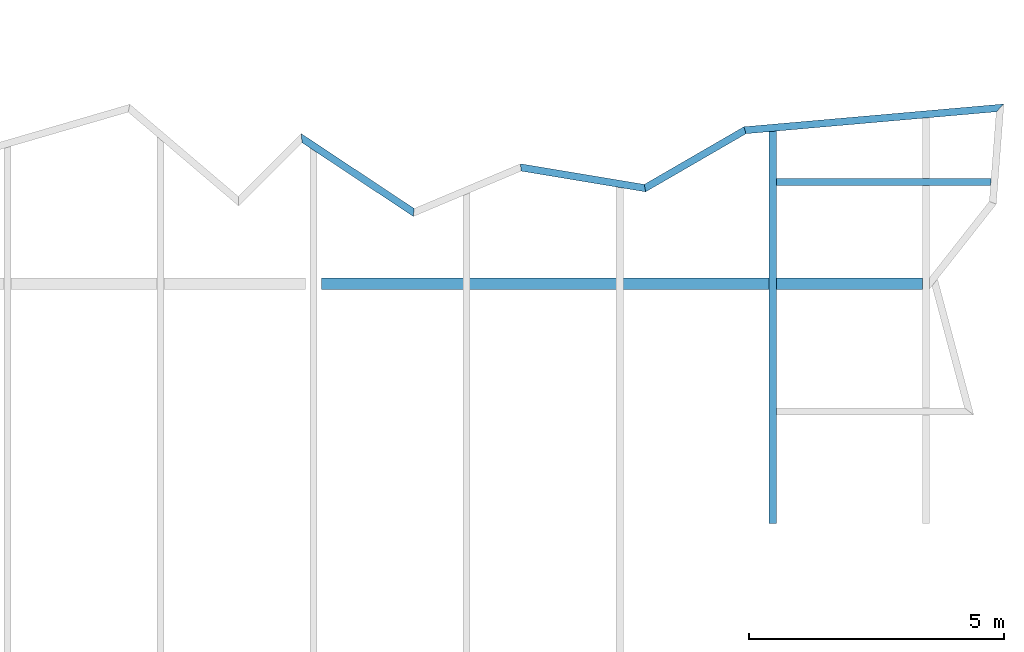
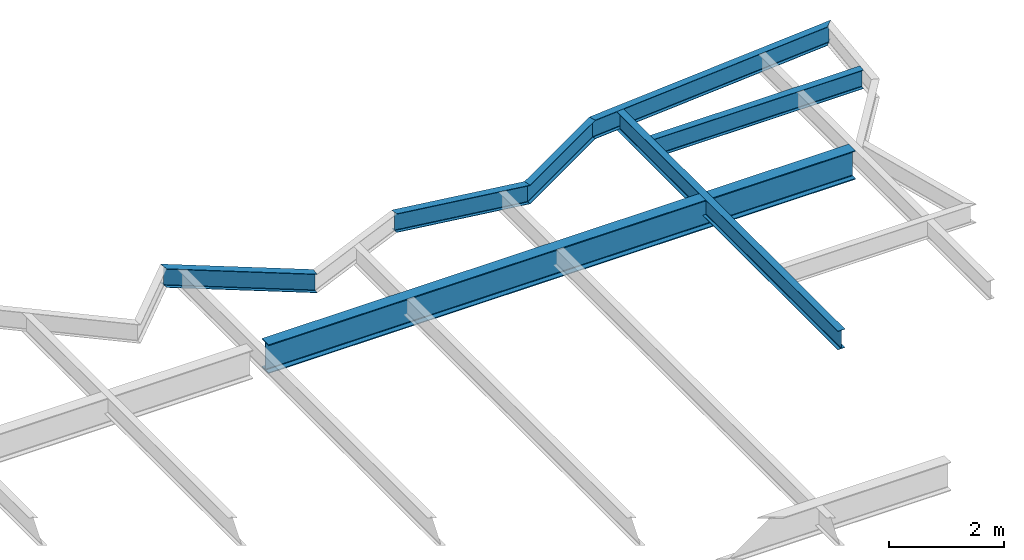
# One storey, part 20 of 21: 7 beams.
"""IFC2X3 building model written with IfcOpenShell, lengths in millimetres."""

import ifcopenshell
import ifcopenshell.guid

model = None  # the IFC model being written
_history = None  # IfcOwnerHistory: only IFC2X3 demands one
_inside = {}  # id of a spatial element -> (the spatial element, [elements in it])
_under = {}  # id of a project, library or spatial element -> (it, [spatial elements below it])
_declared = {}  # id of a project -> (the project, [libraries it declares])
_typed = {}  # id of a type object -> (the type object, [elements of that type])
_made_of = {}  # id of a material, layer set ... -> (it, [elements and type objects made of it])


def new_model(schema):
    """Start an empty IFC model of exactly this schema.

    Asked for "IFC4X3", IfcOpenShell would pick the latest addendum, in which some entities
    have other attributes; the version numbers below select the first issue.
    IFC2X3 requires an IfcOwnerHistory on every rooted entity: one is made here for all.
    """
    global model, _history
    if schema == "IFC4X3":
        model = ifcopenshell.file(schema_version=(4, 3, 0, 0))
    else:
        model = ifcopenshell.file(schema=schema)
    _inside.clear()
    _under.clear()
    _declared.clear()
    _typed.clear()
    _made_of.clear()
    _history = None
    if model.schema == "IFC2X3":
        org = make("IfcOrganization", Name="unknown")
        user = make(
            "IfcPersonAndOrganization",
            ThePerson=make("IfcPerson", FamilyName="unknown"),
            TheOrganization=org,
        )
        app = make(
            "IfcApplication",
            ApplicationDeveloper=org,
            Version="unknown",
            ApplicationFullName="unknown",
            ApplicationIdentifier="unknown",
        )
        _history = make(
            "IfcOwnerHistory",
            OwningUser=user,
            OwningApplication=app,
            ChangeAction="ADDED",
            CreationDate=0,
        )
    return model


def make(cls, **values):
    """One entity of the class cls with the attributes given. An attribute that is None is left unset."""
    return model.create_entity(
        cls, **{name: value for name, value in values.items() if value is not None}
    )


def rooted(cls, **values):
    """An entity with a GlobalId (a new one), such as an element, a storey or a relation."""
    return make(cls, GlobalId=ifcopenshell.guid.new(), OwnerHistory=_history, **values)


def si_unit(unit_type, name, prefix=None):
    """IfcSIUnit, for example si_unit("LENGTHUNIT", "METRE", prefix="MILLI")."""
    return make("IfcSIUnit", UnitType=unit_type, Prefix=prefix, Name=name)


def assignment(units):
    """IfcUnitAssignment: the units of a project."""
    return None if units is None else make("IfcUnitAssignment", Units=units)


def point(xyz):
    """IfcCartesianPoint."""
    return None if xyz is None else make("IfcCartesianPoint", Coordinates=xyz)


def direction(xyz):
    """IfcDirection."""
    return None if xyz is None else make("IfcDirection", DirectionRatios=xyz)


def frame(location, z_axis=None, x_axis=None):
    """IfcAxis2Placement3D, a coordinate frame: its origin and axes. An axis left out is left unset."""
    return make(
        "IfcAxis2Placement3D",
        Location=point(location),
        Axis=direction(z_axis),
        RefDirection=direction(x_axis),
    )


def origin():
    """The frame at (0, 0, 0) with its axes left unset."""
    return frame((0.0, 0.0, 0.0))


def place(relative_to, where):
    """IfcLocalPlacement: puts the frame where relative to a parent placement (None: the world)."""
    return make(
        "IfcLocalPlacement", PlacementRelTo=relative_to, RelativePlacement=where
    )


def context(
    kind, dimensions, precision=None, world=None, true_north=None, identifier=None
):
    """IfcGeometricRepresentationContext, for example the 3D "Model" context."""
    return make(
        "IfcGeometricRepresentationContext",
        ContextIdentifier=identifier,
        ContextType=kind,
        CoordinateSpaceDimension=dimensions,
        Precision=precision,
        WorldCoordinateSystem=world,
        TrueNorth=true_north,
    )


def project(units=None, contexts=None):
    """IfcProject with its units and contexts."""
    return rooted(
        "IfcProject",
        Name="project",
        RepresentationContexts=contexts,
        UnitsInContext=assignment(units),
    )


def spatial(cls, under=None, at=None, **own):
    """A site, building, storey or space (cls), placed at a placement, below another one or the project."""
    s = rooted(cls, ObjectPlacement=at, **own)
    if under is not None:
        _under.setdefault(under.id(), (under, []))[1].append(s)
    return s


def faces_of(points, faces, orient=None, outer=None):
    """IfcFace entities. A face is a list of loops; a loop is a list of indices into points, from 0.

    orient and outer hold one flag for each loop. By default every Orientation is true, the
    first loop of a face is its IfcFaceOuterBound and the others are IfcFaceBound.
    """
    made = []
    for i, loops in enumerate(faces):
        bounds = []
        for j, loop in enumerate(loops):
            is_outer = j == 0 if outer is None else outer[i][j]
            bounds.append(
                make(
                    "IfcFaceOuterBound" if is_outer else "IfcFaceBound",
                    Bound=make("IfcPolyLoop", Polygon=[points[k] for k in loop]),
                    Orientation=True if orient is None else orient[i][j],
                )
            )
        made.append(make("IfcFace", Bounds=bounds))
    return made


def faceted_brep(points, faces, orient=None, outer=None, voids=None):
    """IfcFacetedBrep: a solid bounded by flat faces; with voids (closed shells), ...WithVoids."""
    shared = [point(p) for p in points]
    hull = make("IfcClosedShell", CfsFaces=faces_of(shared, faces, orient, outer))
    if voids is None:
        return make("IfcFacetedBrep", Outer=hull)
    return make(
        "IfcFacetedBrepWithVoids",
        Outer=hull,
        Voids=[
            make(cls, CfsFaces=faces_of(shared, fs, o, b)) for cls, fs, o, b in voids
        ],
    )


def shape(context_of_items, identifier, shape_type, items):
    """IfcShapeRepresentation: the items that make up one representation, for example the "Body"."""
    return make(
        "IfcShapeRepresentation",
        ContextOfItems=context_of_items,
        RepresentationIdentifier=identifier,
        RepresentationType=shape_type,
        Items=items,
    )


def material(Name=None, Category=None):
    """IfcMaterial."""
    return make("IfcMaterial", Name=Name, Category=Category)


def made_of(thing, what):
    """Note that an element or type object is made of a material, layer set ...; save() writes the relation."""
    if what is not None:
        _made_of.setdefault(what.id(), (what, []))[1].append(thing)
    return thing


def element(
    cls,
    number,
    at=None,
    inside=None,
    cuts=None,
    type_object=None,
    material=None,
    context=None,
    identifier="Body",
    shape_type=None,
    held_by="IfcProductDefinitionShape",
    body=None,
    shapes=None,
    **own,
):
    """One element of the class cls, such as IfcWall. Its Tag is "e" and its number.

    at: its placement. inside: the storey or other place that contains it. cuts: it is an
    opening in that element (IfcRelVoidsElement). A single representation is given by context,
    identifier, shape_type and body (its items); several are given by shapes. held_by: the class
    of the entity that holds the representations. save() writes the other relations.
    """
    e = rooted(cls, Tag="e%d" % number, ObjectPlacement=at, **own)
    if body is not None:
        shapes = [shape(context, identifier, shape_type, body)]
    if shapes is not None:
        e.Representation = make(held_by, Representations=shapes)
    if inside is not None:
        _inside.setdefault(inside.id(), (inside, []))[1].append(e)
    if cuts is not None:
        rooted(
            "IfcRelVoidsElement", RelatingBuildingElement=cuts, RelatedOpeningElement=e
        )
    if type_object is not None:
        _typed.setdefault(type_object.id(), (type_object, []))[1].append(e)
    return made_of(e, material)


def aggregate(whole, parts):
    """IfcRelAggregates: a whole, such as a stair, and the parts it consists of."""
    return rooted("IfcRelAggregates", RelatingObject=whole, RelatedObjects=parts)


def save(model, path):
    """Write the relations noted so far, then the file.

    IfcRelAggregates (storeys below a building ...), IfcRelContainedInSpatialStructure (elements
    in a storey), IfcRelDefinesByType, IfcRelAssociatesMaterial and IfcRelDeclares: one each for
    every whole, place, type object, material and project.
    """
    for whole, parts in _under.values():
        aggregate(whole, parts)
    for where, things in _inside.values():
        rooted(
            "IfcRelContainedInSpatialStructure",
            RelatedElements=things,
            RelatingStructure=where,
        )
    for kind, things in _typed.values():
        rooted("IfcRelDefinesByType", RelatedObjects=things, RelatingType=kind)
    for what, things in _made_of.values():
        rooted("IfcRelAssociatesMaterial", RelatedObjects=things, RelatingMaterial=what)
    for by, libraries in _declared.values():
        rooted("IfcRelDeclares", RelatingContext=by, RelatedDefinitions=libraries)
    model.write(path)


model = new_model("IFC2X3")

# Units and contexts
context_of_model = context(None, 3, precision=1e-05, world=origin())
ifc_project = project(units=[si_unit("LENGTHUNIT", "METRE", prefix="MILLI")], contexts=[context_of_model])

# Building, storey
building = spatial("IfcBuilding", under=ifc_project, Name="Building", CompositionType="ELEMENT")
storey = spatial("IfcBuildingStorey", under=building, Name="FL3-FRM", CompositionType="ELEMENT")

# Beams
ifc_material_1 = material(Name="A992")
beam_1_placement = place(None, origin())
element("IfcBeam", 1, at=beam_1_placement, inside=storey, material=ifc_material_1, Name="B1040", context=context_of_model, shape_type="Brep", body=[
    faceted_brep([(80930.0, 29983.1, 8474.0), (81070.0, 29995.4, 8474.0), (81070.0, 22300.0, 8474.0), (80930.0, 22300.0, 8474.0), (81070.0, 29995.4, 8482.8), (81070.0, 22300.0, 8482.8), (81013.4, 29990.4, 8482.8), (81013.4, 22300.0, 8482.8), (81011.9, 29990.3, 8482.9), (81011.9, 22300.0, 8482.9), (81010.5, 29990.1, 8483.21), (81010.5, 22300.0, 8483.21), (81009.2, 29990.0, 8483.72), (81009.2, 22300.0, 8483.72), (81007.9, 29989.9, 8484.42), (81007.9, 22300.0, 8484.42), (81006.7, 29989.8, 8485.29), (81006.7, 22300.0, 8485.29), (81005.7, 29989.7, 8486.32), (81005.7, 22300.0, 8486.32), (81004.8, 29989.6, 8487.49), (81004.8, 22300.0, 8487.49), (81004.1, 29989.6, 8488.76), (81004.1, 22300.0, 8488.76), (81003.6, 29989.5, 8490.13), (81003.6, 22300.0, 8490.13), (81003.3, 29989.5, 8491.55), (81003.3, 22300.0, 8491.55), (81003.2, 29989.5, 8493.0), (81003.2, 22300.0, 8493.0), (81003.2, 29989.5, 8854.0), (81003.2, 22300.0, 8854.0), (81003.3, 29989.5, 8855.45), (81003.3, 22300.0, 8855.45), (81003.6, 29989.5, 8856.87), (81003.6, 22300.0, 8856.87), (81004.1, 29989.6, 8858.24), (81004.1, 22300.0, 8858.24), (81004.8, 29989.6, 8859.51), (81004.8, 22300.0, 8859.51), (81005.7, 29989.7, 8860.68), (81005.7, 22300.0, 8860.68), (81006.7, 29989.8, 8861.71), (81006.7, 22300.0, 8861.71), (81007.9, 29989.9, 8862.58), (81007.9, 22300.0, 8862.58), (81009.2, 29990.0, 8863.28), (81009.2, 22300.0, 8863.28), (81010.5, 29990.1, 8863.79), (81010.5, 22300.0, 8863.79), (81011.9, 29990.3, 8864.1), (81011.9, 22300.0, 8864.1), (81013.4, 29990.4, 8864.2), (81013.4, 22300.0, 8864.2), (81070.0, 29995.4, 8864.2), (81070.0, 22300.0, 8864.2), (81070.0, 29995.4, 8873.0), (81070.0, 22300.0, 8873.0), (80930.0, 29983.1, 8873.0), (80930.0, 22300.0, 8873.0), (80930.0, 29983.1, 8864.2), (80930.0, 22300.0, 8864.2), (80986.6, 29988.0, 8864.2), (80986.6, 22300.0, 8864.2), (80988.1, 29988.2, 8864.1), (80988.1, 22300.0, 8864.1), (80989.5, 29988.3, 8863.79), (80989.5, 22300.0, 8863.79), (80990.8, 29988.4, 8863.28), (80990.8, 22300.0, 8863.28), (80992.1, 29988.5, 8862.58), (80992.1, 22300.0, 8862.58), (80993.3, 29988.6, 8861.71), (80993.3, 22300.0, 8861.71), (80994.3, 29988.7, 8860.68), (80994.3, 22300.0, 8860.68), (80995.2, 29988.8, 8859.51), (80995.2, 22300.0, 8859.51), (80995.9, 29988.9, 8858.24), (80995.9, 22300.0, 8858.24), (80996.4, 29988.9, 8856.87), (80996.4, 22300.0, 8856.87), (80996.7, 29988.9, 8855.45), (80996.7, 22300.0, 8855.45), (80996.8, 29988.9, 8854.0), (80996.8, 22300.0, 8854.0), (80996.8, 29988.9, 8493.0), (80996.8, 22300.0, 8493.0), (80996.7, 29988.9, 8491.55), (80996.7, 22300.0, 8491.55), (80996.4, 29988.9, 8490.13), (80996.4, 22300.0, 8490.13), (80995.9, 29988.9, 8488.76), (80995.9, 22300.0, 8488.76), (80995.2, 29988.8, 8487.49), (80995.2, 22300.0, 8487.49), (80994.3, 29988.7, 8486.32), (80994.3, 22300.0, 8486.32), (80993.3, 29988.6, 8485.29), (80993.3, 22300.0, 8485.29), (80992.1, 29988.5, 8484.42), (80992.1, 22300.0, 8484.42), (80990.8, 29988.4, 8483.72), (80990.8, 22300.0, 8483.72), (80989.5, 29988.3, 8483.21), (80989.5, 22300.0, 8483.21), (80988.1, 29988.2, 8482.9), (80988.1, 22300.0, 8482.9), (80986.6, 29988.0, 8482.8), (80986.6, 22300.0, 8482.8), (80930.0, 29983.1, 8482.8), (80930.0, 22300.0, 8482.8)], [[[0, 1, 2, 3]], [[1, 4, 5, 2]], [[4, 6, 7, 5]], [[6, 8, 9, 7]], [[8, 10, 11, 9]], [[10, 12, 13, 11]], [[12, 14, 15, 13]], [[14, 16, 17, 15]], [[16, 18, 19, 17]], [[18, 20, 21, 19]], [[20, 22, 23, 21]], [[22, 24, 25, 23]], [[24, 26, 27, 25]], [[26, 28, 29, 27]], [[28, 30, 31, 29]], [[30, 32, 33, 31]], [[32, 34, 35, 33]], [[34, 36, 37, 35]], [[36, 38, 39, 37]], [[38, 40, 41, 39]], [[40, 42, 43, 41]], [[42, 44, 45, 43]], [[44, 46, 47, 45]], [[46, 48, 49, 47]], [[48, 50, 51, 49]], [[50, 52, 53, 51]], [[52, 54, 55, 53]], [[54, 56, 57, 55]], [[56, 58, 59, 57]], [[58, 60, 61, 59]], [[60, 62, 63, 61]], [[62, 64, 65, 63]], [[64, 66, 67, 65]], [[66, 68, 69, 67]], [[68, 70, 71, 69]], [[70, 72, 73, 71]], [[72, 74, 75, 73]], [[74, 76, 77, 75]], [[76, 78, 79, 77]], [[78, 80, 81, 79]], [[80, 82, 83, 81]], [[82, 84, 85, 83]], [[84, 86, 87, 85]], [[86, 88, 89, 87]], [[88, 90, 91, 89]], [[90, 92, 93, 91]], [[92, 94, 95, 93]], [[94, 96, 97, 95]], [[96, 98, 99, 97]], [[98, 100, 101, 99]], [[100, 102, 103, 101]], [[102, 104, 105, 103]], [[104, 106, 107, 105]], [[106, 108, 109, 107]], [[108, 110, 111, 109]], [[110, 0, 3, 111]], [[0, 110, 108, 106, 104, 102, 100, 98, 96, 94, 92, 90, 88, 86, 84, 82, 80, 78, 76, 74, 72, 70, 68, 66, 64, 62, 60, 58, 56, 54, 52, 50, 48, 46, 44, 42, 40, 38, 36, 34, 32, 30, 28, 26, 24, 22, 20, 18, 16, 14, 12, 10, 8, 6, 4, 1]], [[3, 2, 5, 7, 9, 11, 13, 15, 17, 19, 21, 23, 25, 27, 29, 31, 33, 35, 37, 39, 41, 43, 45, 47, 49, 51, 53, 55, 57, 59, 61, 63, 65, 67, 69, 71, 73, 75, 77, 79, 81, 83, 85, 87, 89, 91, 93, 95, 97, 99, 101, 103, 105, 107, 109, 111]]]),
])
ifc_material_2 = material(Name="A992")
beam_2_placement = place(None, origin())
element("IfcBeam", 2, at=beam_2_placement, inside=storey, material=ifc_material_2, Name="B1041", context=context_of_model, shape_type="Brep", body=[
    faceted_brep([(81070.0, 28930.0, 8474.0), (81070.0, 29070.0, 8474.0), (85279.9, 29070.0, 8474.0), (85269.1, 28930.0, 8474.0), (81070.0, 29070.0, 8482.8), (85279.9, 29070.0, 8482.8), (81070.0, 29013.4, 8482.8), (85275.5, 29013.4, 8482.8), (81070.0, 29011.9, 8482.9), (85275.4, 29011.9, 8482.9), (81070.0, 29010.5, 8483.21), (85275.3, 29010.5, 8483.21), (81070.0, 29009.2, 8483.72), (85275.2, 29009.2, 8483.72), (81070.0, 29007.9, 8484.42), (85275.1, 29007.9, 8484.42), (81070.0, 29006.7, 8485.29), (85275.0, 29006.7, 8485.29), (81070.0, 29005.7, 8486.32), (85274.9, 29005.7, 8486.32), (81070.0, 29004.8, 8487.49), (85274.8, 29004.8, 8487.49), (81070.0, 29004.1, 8488.76), (85274.8, 29004.1, 8488.76), (81070.0, 29003.6, 8490.13), (85274.7, 29003.6, 8490.13), (81070.0, 29003.3, 8491.55), (85274.7, 29003.3, 8491.55), (81070.0, 29003.2, 8493.0), (85274.7, 29003.2, 8493.0), (81070.0, 29003.2, 8854.0), (85274.7, 29003.2, 8854.0), (81070.0, 29003.3, 8855.45), (85274.7, 29003.3, 8855.45), (81070.0, 29003.6, 8856.87), (85274.7, 29003.6, 8856.87), (81070.0, 29004.1, 8858.24), (85274.8, 29004.1, 8858.24), (81070.0, 29004.8, 8859.51), (85274.8, 29004.8, 8859.51), (81070.0, 29005.7, 8860.68), (85274.9, 29005.7, 8860.68), (81070.0, 29006.7, 8861.71), (85275.0, 29006.7, 8861.71), (81070.0, 29007.9, 8862.58), (85275.1, 29007.9, 8862.58), (81070.0, 29009.2, 8863.28), (85275.2, 29009.2, 8863.28), (81070.0, 29010.5, 8863.79), (85275.3, 29010.5, 8863.79), (81070.0, 29011.9, 8864.1), (85275.4, 29011.9, 8864.1), (81070.0, 29013.4, 8864.2), (85275.5, 29013.4, 8864.2), (81070.0, 29070.0, 8864.2), (85279.9, 29070.0, 8864.2), (81070.0, 29070.0, 8873.0), (85279.9, 29070.0, 8873.0), (81070.0, 28930.0, 8873.0), (85269.1, 28930.0, 8873.0), (81070.0, 28930.0, 8864.2), (85269.1, 28930.0, 8864.2), (81070.0, 28986.6, 8864.2), (85273.4, 28986.6, 8864.2), (81070.0, 28988.1, 8864.1), (85273.6, 28988.1, 8864.1), (81070.0, 28989.5, 8863.79), (85273.7, 28989.5, 8863.79), (81070.0, 28990.8, 8863.28), (85273.8, 28990.8, 8863.28), (81070.0, 28992.1, 8862.58), (85273.9, 28992.1, 8862.58), (81070.0, 28993.3, 8861.71), (85274.0, 28993.3, 8861.71), (81070.0, 28994.3, 8860.68), (85274.0, 28994.3, 8860.68), (81070.0, 28995.2, 8859.51), (85274.1, 28995.2, 8859.51), (81070.0, 28995.9, 8858.24), (85274.2, 28995.9, 8858.24), (81070.0, 28996.4, 8856.87), (85274.2, 28996.4, 8856.87), (81070.0, 28996.7, 8855.45), (85274.2, 28996.7, 8855.45), (81070.0, 28996.8, 8854.0), (85274.2, 28996.8, 8854.0), (81070.0, 28996.8, 8493.0), (85274.2, 28996.8, 8493.0), (81070.0, 28996.7, 8491.55), (85274.2, 28996.7, 8491.55), (81070.0, 28996.4, 8490.13), (85274.2, 28996.4, 8490.13), (81070.0, 28995.9, 8488.76), (85274.2, 28995.9, 8488.76), (81070.0, 28995.2, 8487.49), (85274.1, 28995.2, 8487.49), (81070.0, 28994.3, 8486.32), (85274.0, 28994.3, 8486.32), (81070.0, 28993.3, 8485.29), (85274.0, 28993.3, 8485.29), (81070.0, 28992.1, 8484.42), (85273.9, 28992.1, 8484.42), (81070.0, 28990.8, 8483.72), (85273.8, 28990.8, 8483.72), (81070.0, 28989.5, 8483.21), (85273.7, 28989.5, 8483.21), (81070.0, 28988.1, 8482.9), (85273.6, 28988.1, 8482.9), (81070.0, 28986.6, 8482.8), (85273.4, 28986.6, 8482.8), (81070.0, 28930.0, 8482.8), (85269.1, 28930.0, 8482.8)], [[[0, 1, 2, 3]], [[1, 4, 5, 2]], [[4, 6, 7, 5]], [[6, 8, 9, 7]], [[8, 10, 11, 9]], [[10, 12, 13, 11]], [[12, 14, 15, 13]], [[14, 16, 17, 15]], [[16, 18, 19, 17]], [[18, 20, 21, 19]], [[20, 22, 23, 21]], [[22, 24, 25, 23]], [[24, 26, 27, 25]], [[26, 28, 29, 27]], [[28, 30, 31, 29]], [[30, 32, 33, 31]], [[32, 34, 35, 33]], [[34, 36, 37, 35]], [[36, 38, 39, 37]], [[38, 40, 41, 39]], [[40, 42, 43, 41]], [[42, 44, 45, 43]], [[44, 46, 47, 45]], [[46, 48, 49, 47]], [[48, 50, 51, 49]], [[50, 52, 53, 51]], [[52, 54, 55, 53]], [[54, 56, 57, 55]], [[56, 58, 59, 57]], [[58, 60, 61, 59]], [[60, 62, 63, 61]], [[62, 64, 65, 63]], [[64, 66, 67, 65]], [[66, 68, 69, 67]], [[68, 70, 71, 69]], [[70, 72, 73, 71]], [[72, 74, 75, 73]], [[74, 76, 77, 75]], [[76, 78, 79, 77]], [[78, 80, 81, 79]], [[80, 82, 83, 81]], [[82, 84, 85, 83]], [[84, 86, 87, 85]], [[86, 88, 89, 87]], [[88, 90, 91, 89]], [[90, 92, 93, 91]], [[92, 94, 95, 93]], [[94, 96, 97, 95]], [[96, 98, 99, 97]], [[98, 100, 101, 99]], [[100, 102, 103, 101]], [[102, 104, 105, 103]], [[104, 106, 107, 105]], [[106, 108, 109, 107]], [[108, 110, 111, 109]], [[110, 0, 3, 111]], [[0, 110, 108, 106, 104, 102, 100, 98, 96, 94, 92, 90, 88, 86, 84, 82, 80, 78, 76, 74, 72, 70, 68, 66, 64, 62, 60, 58, 56, 54, 52, 50, 48, 46, 44, 42, 40, 38, 36, 34, 32, 30, 28, 26, 24, 22, 20, 18, 16, 14, 12, 10, 8, 6, 4, 1]], [[3, 2, 5, 7, 9, 11, 13, 15, 17, 19, 21, 23, 25, 27, 29, 31, 33, 35, 37, 39, 41, 43, 45, 47, 49, 51, 53, 55, 57, 59, 61, 63, 65, 67, 69, 71, 73, 75, 77, 79, 81, 83, 85, 87, 89, 91, 93, 95, 97, 99, 101, 103, 105, 107, 109, 111]]]),
])
ifc_material_3 = material(Name="A992")
beam_3_placement = place(None, origin())
element("IfcBeam", 3, at=beam_3_placement, inside=storey, material=ifc_material_3, Name="B1043", context=context_of_model, shape_type="Brep", body=[
    faceted_brep([(80476.0, 29943.2, 8474.0), (80432.8, 30080.0, 8474.0), (85532.4, 30527.3, 8474.0), (85380.1, 30373.4, 8474.0), (80432.8, 30080.0, 8482.8), (85532.4, 30527.3, 8482.8), (80450.2, 30024.7, 8482.8), (85470.8, 30465.1, 8482.8), (80450.7, 30023.3, 8482.9), (85469.3, 30463.5, 8482.88), (80451.1, 30021.9, 8483.21), (85467.7, 30462.0, 8483.19), (80451.5, 30020.6, 8483.72), (85466.2, 30460.5, 8483.72), (80451.9, 30019.3, 8484.42), (85464.9, 30459.1, 8484.38), (80452.3, 30018.2, 8485.29), (85463.6, 30457.8, 8485.25), (80452.6, 30017.2, 8486.32), (85462.5, 30456.7, 8486.3), (80452.9, 30016.3, 8487.48), (85461.5, 30455.7, 8487.41), (80453.1, 30015.6, 8488.76), (85460.7, 30454.9, 8488.73), (80453.3, 30015.2, 8490.13), (85460.2, 30454.4, 8490.1), (80453.3, 30014.9, 8491.55), (85459.9, 30454.1, 8491.52), (80453.4, 30014.7, 8493.0), (85459.7, 30453.9, 8493.0), (80453.4, 30014.7, 8854.0), (85459.7, 30453.9, 8854.0), (80453.3, 30014.9, 8855.45), (85459.9, 30454.1, 8855.48), (80453.3, 30015.2, 8856.87), (85460.2, 30454.4, 8856.9), (80453.1, 30015.6, 8858.24), (85460.7, 30454.9, 8858.27), (80452.9, 30016.3, 8859.52), (85461.5, 30455.7, 8859.59), (80452.6, 30017.2, 8860.68), (85462.5, 30456.7, 8860.7), (80452.3, 30018.2, 8861.71), (85463.6, 30457.8, 8861.75), (80451.9, 30019.3, 8862.58), (85464.9, 30459.1, 8862.62), (80451.5, 30020.6, 8863.28), (85466.2, 30460.5, 8863.28), (80451.1, 30021.9, 8863.79), (85467.7, 30462.0, 8863.81), (80450.7, 30023.3, 8864.1), (85469.3, 30463.5, 8864.12), (80450.2, 30024.7, 8864.2), (85470.8, 30465.1, 8864.2), (80432.8, 30080.0, 8864.2), (85532.4, 30527.3, 8864.2), (80432.8, 30080.0, 8873.0), (85532.4, 30527.3, 8873.0), (80476.0, 29943.2, 8873.0), (85380.1, 30373.4, 8873.0), (80476.0, 29943.2, 8864.2), (85380.1, 30373.4, 8864.2), (80458.5, 29998.5, 8864.2), (85441.7, 30435.7, 8864.2), (80458.1, 29999.9, 8864.1), (85443.2, 30437.2, 8864.12), (80457.6, 30001.3, 8863.79), (85444.8, 30438.8, 8863.81), (80457.2, 30002.7, 8863.28), (85446.3, 30440.3, 8863.28), (80456.8, 30003.9, 8862.58), (85447.6, 30441.7, 8862.62), (80456.4, 30005.1, 8861.71), (85448.9, 30443.0, 8861.75), (80456.1, 30006.1, 8860.68), (85450.0, 30444.1, 8860.7), (80455.9, 30006.9, 8859.52), (85451.0, 30445.0, 8859.59), (80455.6, 30007.6, 8858.24), (85451.8, 30445.8, 8858.27), (80455.5, 30008.1, 8856.87), (85452.3, 30446.4, 8856.9), (80455.4, 30008.4, 8855.45), (85452.6, 30446.7, 8855.48), (80455.4, 30008.5, 8854.0), (85452.8, 30446.9, 8854.0), (80455.4, 30008.5, 8493.0), (85452.8, 30446.9, 8493.0), (80455.4, 30008.4, 8491.55), (85452.6, 30446.7, 8491.52), (80455.5, 30008.1, 8490.13), (85452.3, 30446.4, 8490.1), (80455.6, 30007.6, 8488.76), (85451.8, 30445.8, 8488.73), (80455.9, 30006.9, 8487.48), (85451.0, 30445.0, 8487.41), (80456.1, 30006.1, 8486.32), (85450.0, 30444.1, 8486.3), (80456.4, 30005.1, 8485.29), (85448.9, 30443.0, 8485.25), (80456.8, 30003.9, 8484.42), (85447.6, 30441.7, 8484.38), (80457.2, 30002.7, 8483.72), (85446.3, 30440.3, 8483.72), (80457.6, 30001.3, 8483.21), (85444.8, 30438.8, 8483.19), (80458.1, 29999.9, 8482.9), (85443.2, 30437.2, 8482.88), (80458.5, 29998.5, 8482.8), (85441.7, 30435.7, 8482.8), (80476.0, 29943.2, 8482.8), (85380.1, 30373.4, 8482.8)], [[[0, 1, 2, 3]], [[1, 4, 5, 2]], [[4, 6, 7, 5]], [[6, 8, 9, 7]], [[8, 10, 11, 9]], [[10, 12, 13, 11]], [[12, 14, 15, 13]], [[14, 16, 17, 15]], [[16, 18, 19, 17]], [[18, 20, 21, 19]], [[20, 22, 23, 21]], [[22, 24, 25, 23]], [[24, 26, 27, 25]], [[26, 28, 29, 27]], [[28, 30, 31, 29]], [[30, 32, 33, 31]], [[32, 34, 35, 33]], [[34, 36, 37, 35]], [[36, 38, 39, 37]], [[38, 40, 41, 39]], [[40, 42, 43, 41]], [[42, 44, 45, 43]], [[44, 46, 47, 45]], [[46, 48, 49, 47]], [[48, 50, 51, 49]], [[50, 52, 53, 51]], [[52, 54, 55, 53]], [[54, 56, 57, 55]], [[56, 58, 59, 57]], [[58, 60, 61, 59]], [[60, 62, 63, 61]], [[62, 64, 65, 63]], [[64, 66, 67, 65]], [[66, 68, 69, 67]], [[68, 70, 71, 69]], [[70, 72, 73, 71]], [[72, 74, 75, 73]], [[74, 76, 77, 75]], [[76, 78, 79, 77]], [[78, 80, 81, 79]], [[80, 82, 83, 81]], [[82, 84, 85, 83]], [[84, 86, 87, 85]], [[86, 88, 89, 87]], [[88, 90, 91, 89]], [[90, 92, 93, 91]], [[92, 94, 95, 93]], [[94, 96, 97, 95]], [[96, 98, 99, 97]], [[98, 100, 101, 99]], [[100, 102, 103, 101]], [[102, 104, 105, 103]], [[104, 106, 107, 105]], [[106, 108, 109, 107]], [[108, 110, 111, 109]], [[110, 0, 3, 111]], [[0, 110, 108, 106, 104, 102, 100, 98, 96, 94, 92, 90, 88, 86, 84, 82, 80, 78, 76, 74, 72, 70, 68, 66, 64, 62, 60, 58, 56, 54, 52, 50, 48, 46, 44, 42, 40, 38, 36, 34, 32, 30, 28, 26, 24, 22, 20, 18, 16, 14, 12, 10, 8, 6, 4, 1]], [[3, 2, 5, 7, 9, 11, 13, 15, 17, 19, 21, 23, 25, 27, 29, 31, 33, 35, 37, 39, 41, 43, 45, 47, 49, 51, 53, 55, 57, 59, 61, 63, 65, 67, 69, 71, 73, 75, 77, 79, 81, 83, 85, 87, 89, 91, 93, 95, 97, 99, 101, 103, 105, 107, 109, 111]]]),
])
ifc_material_4 = material(Name="A992")
beam_4_placement = place(None, origin())
element("IfcBeam", 4, at=beam_4_placement, inside=storey, material=ifc_material_4, Name="Column622", context=context_of_model, shape_type="Brep", body=[
    faceted_brep([(72157.0, 26885.5, 8261.0), (72157.0, 27114.5, 8261.0), (83930.0, 27114.5, 8261.0), (83930.0, 26885.5, 8261.0), (72157.0, 27114.5, 8280.6), (83930.0, 27114.5, 8280.6), (72157.0, 27018.6, 8280.6), (83930.0, 27018.6, 8280.6), (72157.0, 27015.4, 8281.03), (83930.0, 27015.4, 8281.03), (72157.0, 27012.3, 8282.3), (83930.0, 27012.3, 8282.3), (72157.0, 27009.7, 8284.32), (83930.0, 27009.7, 8284.32), (72157.0, 27007.7, 8286.95), (83930.0, 27007.7, 8286.95), (72157.0, 27006.4, 8290.01), (83930.0, 27006.4, 8290.01), (72157.0, 27005.9, 8293.3), (83930.0, 27005.9, 8293.3), (72157.0, 27005.9, 8840.7), (83930.0, 27005.9, 8840.7), (72157.0, 27006.4, 8843.99), (83930.0, 27006.4, 8843.99), (72157.0, 27007.7, 8847.05), (83930.0, 27007.7, 8847.05), (72157.0, 27009.7, 8849.68), (83930.0, 27009.7, 8849.68), (72157.0, 27012.3, 8851.7), (83930.0, 27012.3, 8851.7), (72157.0, 27015.4, 8852.97), (83930.0, 27015.4, 8852.97), (72157.0, 27018.6, 8853.4), (83930.0, 27018.6, 8853.4), (72157.0, 27114.5, 8853.4), (83930.0, 27114.5, 8853.4), (72157.0, 27114.5, 8873.0), (83930.0, 27114.5, 8873.0), (72157.0, 26885.5, 8873.0), (83930.0, 26885.5, 8873.0), (72157.0, 26885.5, 8853.4), (83930.0, 26885.5, 8853.4), (72157.0, 26981.4, 8853.4), (83930.0, 26981.4, 8853.4), (72157.0, 26984.6, 8852.97), (83930.0, 26984.6, 8852.97), (72157.0, 26987.7, 8851.7), (83930.0, 26987.7, 8851.7), (72157.0, 26990.3, 8849.68), (83930.0, 26990.3, 8849.68), (72157.0, 26992.3, 8847.05), (83930.0, 26992.3, 8847.05), (72157.0, 26993.6, 8843.99), (83930.0, 26993.6, 8843.99), (72157.0, 26994.1, 8840.7), (83930.0, 26994.1, 8840.7), (72157.0, 26994.1, 8293.3), (83930.0, 26994.1, 8293.3), (72157.0, 26993.6, 8290.01), (83930.0, 26993.6, 8290.01), (72157.0, 26992.3, 8286.95), (83930.0, 26992.3, 8286.95), (72157.0, 26990.3, 8284.32), (83930.0, 26990.3, 8284.32), (72157.0, 26987.7, 8282.3), (83930.0, 26987.7, 8282.3), (72157.0, 26984.6, 8281.03), (83930.0, 26984.6, 8281.03), (72157.0, 26981.4, 8280.6), (83930.0, 26981.4, 8280.6), (72157.0, 26885.5, 8280.6), (83930.0, 26885.5, 8280.6)], [[[0, 1, 2, 3]], [[1, 4, 5, 2]], [[4, 6, 7, 5]], [[6, 8, 9, 7]], [[8, 10, 11, 9]], [[10, 12, 13, 11]], [[12, 14, 15, 13]], [[14, 16, 17, 15]], [[16, 18, 19, 17]], [[18, 20, 21, 19]], [[20, 22, 23, 21]], [[22, 24, 25, 23]], [[24, 26, 27, 25]], [[26, 28, 29, 27]], [[28, 30, 31, 29]], [[30, 32, 33, 31]], [[32, 34, 35, 33]], [[34, 36, 37, 35]], [[36, 38, 39, 37]], [[38, 40, 41, 39]], [[40, 42, 43, 41]], [[42, 44, 45, 43]], [[44, 46, 47, 45]], [[46, 48, 49, 47]], [[48, 50, 51, 49]], [[50, 52, 53, 51]], [[52, 54, 55, 53]], [[54, 56, 57, 55]], [[56, 58, 59, 57]], [[58, 60, 61, 59]], [[60, 62, 63, 61]], [[62, 64, 65, 63]], [[64, 66, 67, 65]], [[66, 68, 69, 67]], [[68, 70, 71, 69]], [[70, 0, 3, 71]], [[0, 70, 68, 66, 64, 62, 60, 58, 56, 54, 52, 50, 48, 46, 44, 42, 40, 38, 36, 34, 32, 30, 28, 26, 24, 22, 20, 18, 16, 14, 12, 10, 8, 6, 4, 1]], [[3, 2, 5, 7, 9, 11, 13, 15, 17, 19, 21, 23, 25, 27, 29, 31, 33, 35, 37, 39, 41, 43, 45, 47, 49, 51, 53, 55, 57, 59, 61, 63, 65, 67, 69, 71]]]),
])
ifc_material_5 = material(Name="A992")
beam_5_placement = place(None, origin())
element("IfcBeam", 5, at=beam_5_placement, inside=storey, material=ifc_material_5, Name="B1044", context=context_of_model, shape_type="Brep", body=[
    faceted_brep([(78508.3, 28804.1, 8474.0), (78481.7, 28950.4, 8474.0), (80432.8, 30080.0, 8474.0), (80476.0, 29943.2, 8474.0), (78481.7, 28950.4, 8482.8), (80432.8, 30080.0, 8482.8), (78492.5, 28891.3, 8482.8), (80450.2, 30024.7, 8482.8), (78492.8, 28889.8, 8482.9), (80450.7, 30023.3, 8482.9), (78493.0, 28888.3, 8483.21), (80451.1, 30021.9, 8483.21), (78493.3, 28886.8, 8483.72), (80451.5, 30020.6, 8483.72), (78493.5, 28885.5, 8484.41), (80451.9, 30019.3, 8484.42), (78493.7, 28884.3, 8485.29), (80452.3, 30018.2, 8485.29), (78493.9, 28883.2, 8486.32), (80452.6, 30017.2, 8486.32), (78494.1, 28882.3, 8487.48), (80452.9, 30016.3, 8487.48), (78494.2, 28881.6, 8488.76), (80453.1, 30015.6, 8488.76), (78494.3, 28881.0, 8490.12), (80453.3, 30015.2, 8490.13), (78494.4, 28880.7, 8491.55), (80453.3, 30014.9, 8491.55), (78494.4, 28880.6, 8493.0), (80453.4, 30014.7, 8493.0), (78494.4, 28880.6, 8854.0), (80453.4, 30014.7, 8854.0), (78494.4, 28880.7, 8855.45), (80453.3, 30014.9, 8855.45), (78494.3, 28881.0, 8856.88), (80453.3, 30015.2, 8856.87), (78494.2, 28881.6, 8858.24), (80453.1, 30015.6, 8858.24), (78494.1, 28882.3, 8859.52), (80452.9, 30016.3, 8859.52), (78493.9, 28883.2, 8860.68), (80452.6, 30017.2, 8860.68), (78493.7, 28884.3, 8861.71), (80452.3, 30018.2, 8861.71), (78493.5, 28885.5, 8862.59), (80451.9, 30019.3, 8862.58), (78493.3, 28886.8, 8863.28), (80451.5, 30020.6, 8863.28), (78493.0, 28888.3, 8863.79), (80451.1, 30021.9, 8863.79), (78492.8, 28889.8, 8864.1), (80450.7, 30023.3, 8864.1), (78492.5, 28891.3, 8864.2), (80450.2, 30024.7, 8864.2), (78481.7, 28950.4, 8864.2), (80432.8, 30080.0, 8864.2), (78481.7, 28950.4, 8873.0), (80432.8, 30080.0, 8873.0), (78508.3, 28804.1, 8873.0), (80476.0, 29943.2, 8873.0), (78508.3, 28804.1, 8864.2), (80476.0, 29943.2, 8864.2), (78497.6, 28863.3, 8864.2), (80458.5, 29998.5, 8864.2), (78497.3, 28864.8, 8864.1), (80458.1, 29999.9, 8864.1), (78497.0, 28866.3, 8863.79), (80457.6, 30001.3, 8863.79), (78496.8, 28867.7, 8863.28), (80457.2, 30002.7, 8863.28), (78496.5, 28869.0, 8862.59), (80456.8, 30003.9, 8862.58), (78496.3, 28870.2, 8861.71), (80456.4, 30005.1, 8861.71), (78496.1, 28871.3, 8860.68), (80456.1, 30006.1, 8860.68), (78495.9, 28872.2, 8859.52), (80455.9, 30006.9, 8859.52), (78495.8, 28873.0, 8858.24), (80455.6, 30007.6, 8858.24), (78495.7, 28873.5, 8856.88), (80455.5, 30008.1, 8856.87), (78495.7, 28873.8, 8855.45), (80455.4, 30008.4, 8855.45), (78495.6, 28873.9, 8854.0), (80455.4, 30008.5, 8854.0), (78495.6, 28873.9, 8493.0), (80455.4, 30008.5, 8493.0), (78495.7, 28873.8, 8491.55), (80455.4, 30008.4, 8491.55), (78495.7, 28873.5, 8490.12), (80455.5, 30008.1, 8490.13), (78495.8, 28873.0, 8488.76), (80455.6, 30007.6, 8488.76), (78495.9, 28872.2, 8487.48), (80455.9, 30006.9, 8487.48), (78496.1, 28871.3, 8486.32), (80456.1, 30006.1, 8486.32), (78496.3, 28870.2, 8485.29), (80456.4, 30005.1, 8485.29), (78496.5, 28869.0, 8484.41), (80456.8, 30003.9, 8484.42), (78496.8, 28867.7, 8483.72), (80457.2, 30002.7, 8483.72), (78497.0, 28866.3, 8483.21), (80457.6, 30001.3, 8483.21), (78497.3, 28864.8, 8482.9), (80458.1, 29999.9, 8482.9), (78497.6, 28863.3, 8482.8), (80458.5, 29998.5, 8482.8), (78508.3, 28804.1, 8482.8), (80476.0, 29943.2, 8482.8)], [[[0, 1, 2, 3]], [[1, 4, 5, 2]], [[4, 6, 7, 5]], [[6, 8, 9, 7]], [[8, 10, 11, 9]], [[10, 12, 13, 11]], [[12, 14, 15, 13]], [[14, 16, 17, 15]], [[16, 18, 19, 17]], [[18, 20, 21, 19]], [[20, 22, 23, 21]], [[22, 24, 25, 23]], [[24, 26, 27, 25]], [[26, 28, 29, 27]], [[28, 30, 31, 29]], [[30, 32, 33, 31]], [[32, 34, 35, 33]], [[34, 36, 37, 35]], [[36, 38, 39, 37]], [[38, 40, 41, 39]], [[40, 42, 43, 41]], [[42, 44, 45, 43]], [[44, 46, 47, 45]], [[46, 48, 49, 47]], [[48, 50, 51, 49]], [[50, 52, 53, 51]], [[52, 54, 55, 53]], [[54, 56, 57, 55]], [[56, 58, 59, 57]], [[58, 60, 61, 59]], [[60, 62, 63, 61]], [[62, 64, 65, 63]], [[64, 66, 67, 65]], [[66, 68, 69, 67]], [[68, 70, 71, 69]], [[70, 72, 73, 71]], [[72, 74, 75, 73]], [[74, 76, 77, 75]], [[76, 78, 79, 77]], [[78, 80, 81, 79]], [[80, 82, 83, 81]], [[82, 84, 85, 83]], [[84, 86, 87, 85]], [[86, 88, 89, 87]], [[88, 90, 91, 89]], [[90, 92, 93, 91]], [[92, 94, 95, 93]], [[94, 96, 97, 95]], [[96, 98, 99, 97]], [[98, 100, 101, 99]], [[100, 102, 103, 101]], [[102, 104, 105, 103]], [[104, 106, 107, 105]], [[106, 108, 109, 107]], [[108, 110, 111, 109]], [[110, 0, 3, 111]], [[0, 110, 108, 106, 104, 102, 100, 98, 96, 94, 92, 90, 88, 86, 84, 82, 80, 78, 76, 74, 72, 70, 68, 66, 64, 62, 60, 58, 56, 54, 52, 50, 48, 46, 44, 42, 40, 38, 36, 34, 32, 30, 28, 26, 24, 22, 20, 18, 16, 14, 12, 10, 8, 6, 4, 1]], [[3, 2, 5, 7, 9, 11, 13, 15, 17, 19, 21, 23, 25, 27, 29, 31, 33, 35, 37, 39, 41, 43, 45, 47, 49, 51, 53, 55, 57, 59, 61, 63, 65, 67, 69, 71, 73, 75, 77, 79, 81, 83, 85, 87, 89, 91, 93, 95, 97, 99, 101, 103, 105, 107, 109, 111]]]),
])
ifc_material_6 = material(Name="A992")
beam_6_placement = place(None, origin())
element("IfcBeam", 6, at=beam_6_placement, inside=storey, material=ifc_material_6, Name="B1045", context=context_of_model, shape_type="Brep", body=[
    faceted_brep([(76069.1, 29210.6, 8474.0), (76052.1, 29355.4, 8474.0), (78481.7, 28950.4, 8474.0), (78508.3, 28804.1, 8474.0), (76052.1, 29355.4, 8482.8), (78481.7, 28950.4, 8482.8), (76059.0, 29296.9, 8482.8), (78492.5, 28891.3, 8482.8), (76059.2, 29295.4, 8482.9), (78492.8, 28889.8, 8482.9), (76059.3, 29293.9, 8483.21), (78493.0, 28888.3, 8483.21), (76059.5, 29292.5, 8483.72), (78493.3, 28886.8, 8483.72), (76059.6, 29291.2, 8484.42), (78493.5, 28885.5, 8484.41), (76059.8, 29290.0, 8485.29), (78493.7, 28884.3, 8485.29), (76059.9, 29288.9, 8486.32), (78493.9, 28883.2, 8486.32), (76060.0, 29288.0, 8487.48), (78494.1, 28882.3, 8487.48), (76060.1, 29287.3, 8488.76), (78494.2, 28881.6, 8488.76), (76060.2, 29286.7, 8490.12), (78494.3, 28881.0, 8490.12), (76060.2, 29286.4, 8491.55), (78494.4, 28880.7, 8491.55), (76060.2, 29286.3, 8493.0), (78494.4, 28880.6, 8493.0), (76060.2, 29286.3, 8854.0), (78494.4, 28880.6, 8854.0), (76060.2, 29286.4, 8855.45), (78494.4, 28880.7, 8855.45), (76060.2, 29286.7, 8856.88), (78494.3, 28881.0, 8856.88), (76060.1, 29287.3, 8858.24), (78494.2, 28881.6, 8858.24), (76060.0, 29288.0, 8859.52), (78494.1, 28882.3, 8859.52), (76059.9, 29288.9, 8860.68), (78493.9, 28883.2, 8860.68), (76059.8, 29290.0, 8861.71), (78493.7, 28884.3, 8861.71), (76059.6, 29291.2, 8862.58), (78493.5, 28885.5, 8862.59), (76059.5, 29292.5, 8863.28), (78493.3, 28886.8, 8863.28), (76059.3, 29293.9, 8863.79), (78493.0, 28888.3, 8863.79), (76059.2, 29295.4, 8864.1), (78492.8, 28889.8, 8864.1), (76059.0, 29296.9, 8864.2), (78492.5, 28891.3, 8864.2), (76052.1, 29355.4, 8864.2), (78481.7, 28950.4, 8864.2), (76052.1, 29355.4, 8873.0), (78481.7, 28950.4, 8873.0), (76069.1, 29210.6, 8873.0), (78508.3, 28804.1, 8873.0), (76069.1, 29210.6, 8864.2), (78508.3, 28804.1, 8864.2), (76062.2, 29269.1, 8864.2), (78497.6, 28863.3, 8864.2), (76062.1, 29270.6, 8864.1), (78497.3, 28864.8, 8864.1), (76061.9, 29272.1, 8863.79), (78497.0, 28866.3, 8863.79), (76061.7, 29273.5, 8863.28), (78496.8, 28867.7, 8863.28), (76061.6, 29274.8, 8862.58), (78496.5, 28869.0, 8862.59), (76061.4, 29276.1, 8861.71), (78496.3, 28870.2, 8861.71), (76061.3, 29277.1, 8860.68), (78496.1, 28871.3, 8860.68), (76061.2, 29278.0, 8859.52), (78495.9, 28872.2, 8859.52), (76061.1, 29278.7, 8858.24), (78495.8, 28873.0, 8858.24), (76061.0, 29279.3, 8856.88), (78495.7, 28873.5, 8856.88), (76061.0, 29279.6, 8855.45), (78495.7, 28873.8, 8855.45), (76061.0, 29279.7, 8854.0), (78495.6, 28873.9, 8854.0), (76061.0, 29279.7, 8493.0), (78495.6, 28873.9, 8493.0), (76061.0, 29279.6, 8491.55), (78495.7, 28873.8, 8491.55), (76061.0, 29279.3, 8490.12), (78495.7, 28873.5, 8490.12), (76061.1, 29278.7, 8488.76), (78495.8, 28873.0, 8488.76), (76061.2, 29278.0, 8487.48), (78495.9, 28872.2, 8487.48), (76061.3, 29277.1, 8486.32), (78496.1, 28871.3, 8486.32), (76061.4, 29276.1, 8485.29), (78496.3, 28870.2, 8485.29), (76061.6, 29274.8, 8484.42), (78496.5, 28869.0, 8484.41), (76061.7, 29273.5, 8483.72), (78496.8, 28867.7, 8483.72), (76061.9, 29272.1, 8483.21), (78497.0, 28866.3, 8483.21), (76062.1, 29270.6, 8482.9), (78497.3, 28864.8, 8482.9), (76062.2, 29269.1, 8482.8), (78497.6, 28863.3, 8482.8), (76069.1, 29210.6, 8482.8), (78508.3, 28804.1, 8482.8)], [[[0, 1, 2, 3]], [[1, 4, 5, 2]], [[4, 6, 7, 5]], [[6, 8, 9, 7]], [[8, 10, 11, 9]], [[10, 12, 13, 11]], [[12, 14, 15, 13]], [[14, 16, 17, 15]], [[16, 18, 19, 17]], [[18, 20, 21, 19]], [[20, 22, 23, 21]], [[22, 24, 25, 23]], [[24, 26, 27, 25]], [[26, 28, 29, 27]], [[28, 30, 31, 29]], [[30, 32, 33, 31]], [[32, 34, 35, 33]], [[34, 36, 37, 35]], [[36, 38, 39, 37]], [[38, 40, 41, 39]], [[40, 42, 43, 41]], [[42, 44, 45, 43]], [[44, 46, 47, 45]], [[46, 48, 49, 47]], [[48, 50, 51, 49]], [[50, 52, 53, 51]], [[52, 54, 55, 53]], [[54, 56, 57, 55]], [[56, 58, 59, 57]], [[58, 60, 61, 59]], [[60, 62, 63, 61]], [[62, 64, 65, 63]], [[64, 66, 67, 65]], [[66, 68, 69, 67]], [[68, 70, 71, 69]], [[70, 72, 73, 71]], [[72, 74, 75, 73]], [[74, 76, 77, 75]], [[76, 78, 79, 77]], [[78, 80, 81, 79]], [[80, 82, 83, 81]], [[82, 84, 85, 83]], [[84, 86, 87, 85]], [[86, 88, 89, 87]], [[88, 90, 91, 89]], [[90, 92, 93, 91]], [[92, 94, 95, 93]], [[94, 96, 97, 95]], [[96, 98, 99, 97]], [[98, 100, 101, 99]], [[100, 102, 103, 101]], [[102, 104, 105, 103]], [[104, 106, 107, 105]], [[106, 108, 109, 107]], [[108, 110, 111, 109]], [[110, 0, 3, 111]], [[0, 110, 108, 106, 104, 102, 100, 98, 96, 94, 92, 90, 88, 86, 84, 82, 80, 78, 76, 74, 72, 70, 68, 66, 64, 62, 60, 58, 56, 54, 52, 50, 48, 46, 44, 42, 40, 38, 36, 34, 32, 30, 28, 26, 24, 22, 20, 18, 16, 14, 12, 10, 8, 6, 4, 1]], [[3, 2, 5, 7, 9, 11, 13, 15, 17, 19, 21, 23, 25, 27, 29, 31, 33, 35, 37, 39, 41, 43, 45, 47, 49, 51, 53, 55, 57, 59, 61, 63, 65, 67, 69, 71, 73, 75, 77, 79, 81, 83, 85, 87, 89, 91, 93, 95, 97, 99, 101, 103, 105, 107, 109, 111]]]),
])
ifc_material_7 = material(Name="A992")
beam_7_placement = place(None, origin())
element("IfcBeam", 7, at=beam_7_placement, inside=storey, material=ifc_material_7, Name="B1049", context=context_of_model, shape_type="Brep", body=[
    faceted_brep([(71773.4, 29767.3, 8474.0), (71755.4, 29947.3, 8474.0), (73969.9, 28478.7, 8474.0), (73955.0, 28320.5, 8474.0), (71755.4, 29947.3, 8482.8), (73969.9, 28478.7, 8482.8), (71762.7, 29874.5, 8482.8), (73963.9, 28414.7, 8482.8), (71762.9, 29872.5, 8482.91), (73963.7, 28412.9, 8482.92), (71763.1, 29870.5, 8483.29), (73963.6, 28411.2, 8483.29), (71763.3, 29868.6, 8483.9), (73963.4, 28409.5, 8483.91), (71763.5, 29866.9, 8484.72), (73963.3, 28408.0, 8484.73), (71763.6, 29865.3, 8485.79), (73963.1, 28406.6, 8485.79), (71763.8, 29864.0, 8486.97), (73963.0, 28405.4, 8486.99), (71763.9, 29862.9, 8488.34), (73962.9, 28404.5, 8488.36), (71763.9, 29862.1, 8489.84), (73962.9, 28403.8, 8489.84), (71764.0, 29861.6, 8491.39), (73962.8, 28403.3, 8491.4), (71764.0, 29861.4, 8493.0), (73962.8, 28403.2, 8493.0), (71764.0, 29861.4, 8854.0), (73962.8, 28403.2, 8854.0), (71764.0, 29861.6, 8855.61), (73962.8, 28403.3, 8855.6), (71763.9, 29862.1, 8857.16), (73962.9, 28403.8, 8857.16), (71763.9, 29862.9, 8858.66), (73962.9, 28404.5, 8858.64), (71763.8, 29864.0, 8860.03), (73963.0, 28405.4, 8860.01), (71763.6, 29865.3, 8861.21), (73963.1, 28406.6, 8861.21), (71763.5, 29866.9, 8862.28), (73963.3, 28408.0, 8862.27), (71763.3, 29868.6, 8863.1), (73963.4, 28409.5, 8863.09), (71763.1, 29870.5, 8863.71), (73963.6, 28411.2, 8863.71), (71762.9, 29872.5, 8864.09), (73963.7, 28412.9, 8864.08), (71762.7, 29874.5, 8864.2), (73963.9, 28414.7, 8864.2), (71755.4, 29947.3, 8864.2), (73969.9, 28478.7, 8864.2), (71755.4, 29947.3, 8873.0), (73969.9, 28478.7, 8873.0), (71773.4, 29767.3, 8873.0), (73955.0, 28320.5, 8873.0), (71773.4, 29767.3, 8864.2), (73955.0, 28320.5, 8864.2), (71766.1, 29840.1, 8864.2), (73961.0, 28384.4, 8864.2), (71765.9, 29842.1, 8864.09), (73961.2, 28386.2, 8864.08), (71765.7, 29844.1, 8863.71), (73961.4, 28388.0, 8863.71), (71765.6, 29846.0, 8863.1), (73961.5, 28389.7, 8863.09), (71765.4, 29847.8, 8862.28), (73961.7, 28391.2, 8862.27), (71765.2, 29849.4, 8861.21), (73961.8, 28392.6, 8861.21), (71765.1, 29850.7, 8860.03), (73961.9, 28393.7, 8860.01), (71765.0, 29851.8, 8858.66), (73962.0, 28394.7, 8858.64), (71764.9, 29852.5, 8857.16), (73962.1, 28395.4, 8857.16), (71764.9, 29853.0, 8855.61), (73962.1, 28395.8, 8855.6), (71764.8, 29853.2, 8854.0), (73962.1, 28396.0, 8854.0), (71764.8, 29853.2, 8493.0), (73962.1, 28396.0, 8493.0), (71764.9, 29853.0, 8491.39), (73962.1, 28395.8, 8491.4), (71764.9, 29852.5, 8489.84), (73962.1, 28395.4, 8489.84), (71765.0, 29851.8, 8488.34), (73962.0, 28394.7, 8488.36), (71765.1, 29850.7, 8486.97), (73961.9, 28393.7, 8486.99), (71765.2, 29849.4, 8485.79), (73961.8, 28392.6, 8485.79), (71765.4, 29847.8, 8484.72), (73961.7, 28391.2, 8484.73), (71765.6, 29846.0, 8483.9), (73961.5, 28389.7, 8483.91), (71765.7, 29844.1, 8483.29), (73961.4, 28388.0, 8483.29), (71765.9, 29842.1, 8482.91), (73961.2, 28386.2, 8482.92), (71766.1, 29840.1, 8482.8), (73961.0, 28384.4, 8482.8), (71773.4, 29767.3, 8482.8), (73955.0, 28320.5, 8482.8)], [[[0, 1, 2, 3]], [[1, 4, 5, 2]], [[4, 6, 7, 5]], [[6, 8, 9, 7]], [[8, 10, 11, 9]], [[10, 12, 13, 11]], [[12, 14, 15, 13]], [[14, 16, 17, 15]], [[16, 18, 19, 17]], [[18, 20, 21, 19]], [[20, 22, 23, 21]], [[22, 24, 25, 23]], [[24, 26, 27, 25]], [[26, 28, 29, 27]], [[28, 30, 31, 29]], [[30, 32, 33, 31]], [[32, 34, 35, 33]], [[34, 36, 37, 35]], [[36, 38, 39, 37]], [[38, 40, 41, 39]], [[40, 42, 43, 41]], [[42, 44, 45, 43]], [[44, 46, 47, 45]], [[46, 48, 49, 47]], [[48, 50, 51, 49]], [[50, 52, 53, 51]], [[52, 54, 55, 53]], [[54, 56, 57, 55]], [[56, 58, 59, 57]], [[58, 60, 61, 59]], [[60, 62, 63, 61]], [[62, 64, 65, 63]], [[64, 66, 67, 65]], [[66, 68, 69, 67]], [[68, 70, 71, 69]], [[70, 72, 73, 71]], [[72, 74, 75, 73]], [[74, 76, 77, 75]], [[76, 78, 79, 77]], [[78, 80, 81, 79]], [[80, 82, 83, 81]], [[82, 84, 85, 83]], [[84, 86, 87, 85]], [[86, 88, 89, 87]], [[88, 90, 91, 89]], [[90, 92, 93, 91]], [[92, 94, 95, 93]], [[94, 96, 97, 95]], [[96, 98, 99, 97]], [[98, 100, 101, 99]], [[100, 102, 103, 101]], [[102, 0, 3, 103]], [[0, 102, 100, 98, 96, 94, 92, 90, 88, 86, 84, 82, 80, 78, 76, 74, 72, 70, 68, 66, 64, 62, 60, 58, 56, 54, 52, 50, 48, 46, 44, 42, 40, 38, 36, 34, 32, 30, 28, 26, 24, 22, 20, 18, 16, 14, 12, 10, 8, 6, 4, 1]], [[3, 2, 5, 7, 9, 11, 13, 15, 17, 19, 21, 23, 25, 27, 29, 31, 33, 35, 37, 39, 41, 43, 45, 47, 49, 51, 53, 55, 57, 59, 61, 63, 65, 67, 69, 71, 73, 75, 77, 79, 81, 83, 85, 87, 89, 91, 93, 95, 97, 99, 101, 103]]]),
])

save(model, "model.ifc")
